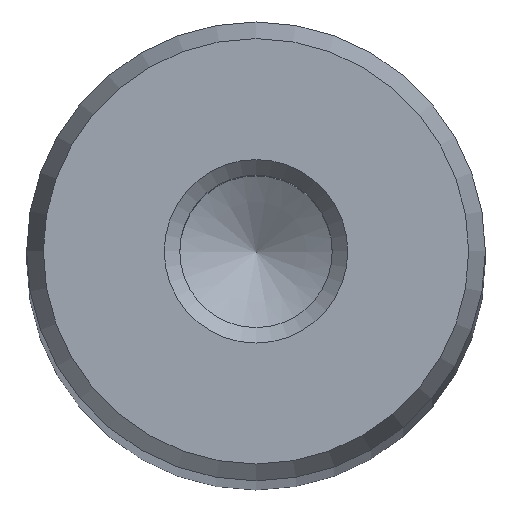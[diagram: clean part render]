
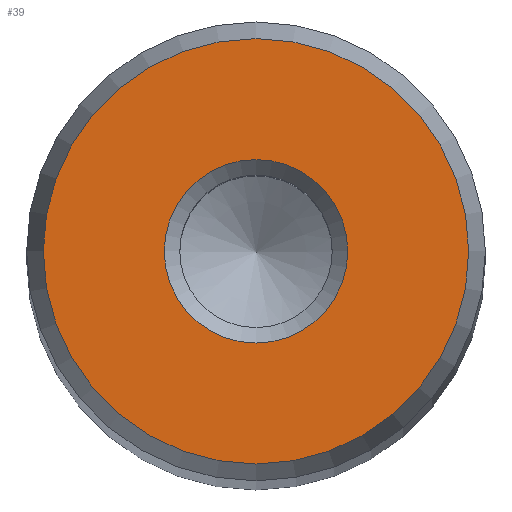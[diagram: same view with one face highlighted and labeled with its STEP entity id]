
A CAD part, top view. The second image highlights one B-rep face of the part: STEP entity #39.
In plain terms, the highlighted planar face has unit normal (0, 0, 1).
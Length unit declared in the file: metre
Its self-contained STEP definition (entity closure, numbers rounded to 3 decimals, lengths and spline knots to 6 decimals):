
#39 = ADVANCED_FACE( '', ( #84, #85 ), #86, .T. );
#84 = FACE_OUTER_BOUND( '', #143, .T. );
#85 = FACE_BOUND( '', #144, .T. );
#86 = PLANE( '', #145 );
#143 = EDGE_LOOP( '', ( #198 ) );
#144 = EDGE_LOOP( '', ( #199 ) );
#145 = AXIS2_PLACEMENT_3D( '', #200, #201, #202 );
#198 = ORIENTED_EDGE( '', *, *, #273, .T. );
#199 = ORIENTED_EDGE( '', *, *, #274, .T. );
#200 = CARTESIAN_POINT( '', ( 0., 0., 0.232 ) );
#201 = DIRECTION( '', ( 0., 0., 1. ) );
#202 = DIRECTION( '', ( 1., 0., 0. ) );
#273 = EDGE_CURVE( '', #302, #302, #303, .T. );
#274 = EDGE_CURVE( '', #304, #304, #305, .T. );
#302 = VERTEX_POINT( '', #339 );
#303 = CIRCLE( '', #340, 0.009272 );
#304 = VERTEX_POINT( '', #341 );
#305 = CIRCLE( '', #342, 0.004 );
#339 = CARTESIAN_POINT( '', ( 0.009272, 0., 0.232 ) );
#340 = AXIS2_PLACEMENT_3D( '', #376, #377, #378 );
#341 = CARTESIAN_POINT( '', ( 0.004, 0., 0.232 ) );
#342 = AXIS2_PLACEMENT_3D( '', #379, #380, #381 );
#376 = CARTESIAN_POINT( '', ( 0., 0., 0.232 ) );
#377 = DIRECTION( '', ( 0., 0., 1. ) );
#378 = DIRECTION( '', ( 1., 0., 0. ) );
#379 = CARTESIAN_POINT( '', ( 0., 0., 0.232 ) );
#380 = DIRECTION( '', ( 0., 0., -1. ) );
#381 = DIRECTION( '', ( 1., 0., 0. ) );
